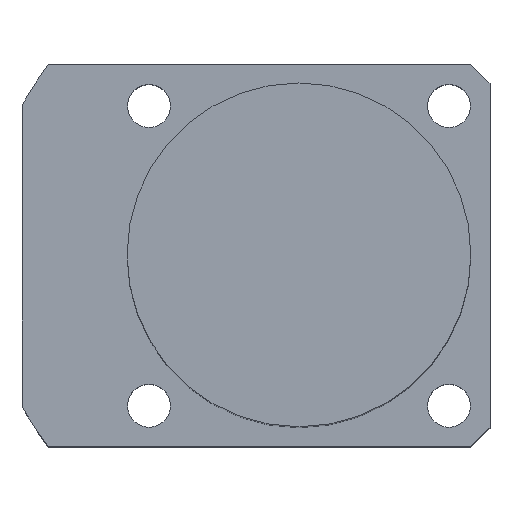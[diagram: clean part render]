
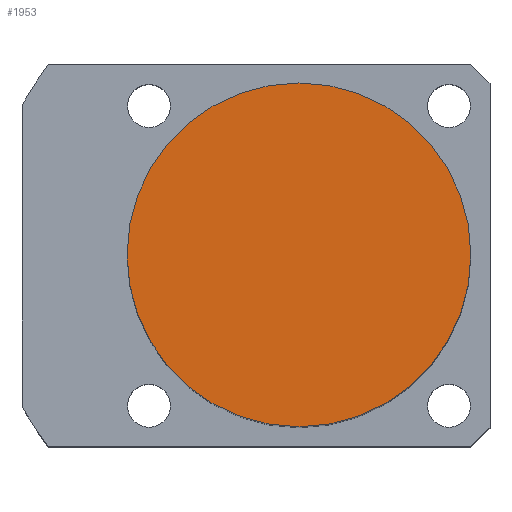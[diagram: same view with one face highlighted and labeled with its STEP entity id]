
A CAD part, top view. The second image highlights one B-rep face of the part: STEP entity #1953.
In plain terms, the highlighted planar face has unit normal (0, 0, 1).
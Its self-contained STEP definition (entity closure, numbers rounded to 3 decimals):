
#1895=CARTESIAN_POINT('',(-0.0,18.0,68.5));
#1896=VERTEX_POINT('',#1895);
#1903=CARTESIAN_POINT('',(18.0,0.0,68.5));
#1904=VERTEX_POINT('',#1903);
#1905=CARTESIAN_POINT('',(0.0,0.0,68.5));
#1906=DIRECTION('',(0.0,0.0,1.0));
#1907=DIRECTION('',(1.0,0.0,0.0));
#1908=AXIS2_PLACEMENT_3D('',#1905,#1906,#1907);
#1909=CIRCLE('',#1908,18.0);
#1910=EDGE_CURVE('no 2129',#1904,#1896,#1909,.T.);
#1912=CARTESIAN_POINT('',(-0.0,-18.0,68.5));
#1913=VERTEX_POINT('',#1912);
#1914=CARTESIAN_POINT('',(0.0,0.0,68.5));
#1915=DIRECTION('',(0.0,0.0,1.0));
#1916=DIRECTION('',(1.0,0.0,0.0));
#1917=AXIS2_PLACEMENT_3D('',#1914,#1915,#1916);
#1918=CIRCLE('',#1917,18.0);
#1919=EDGE_CURVE('no 2135',#1913,#1904,#1918,.T.);
#1937=ORIENTED_EDGE('',*,*,#1910,.T.);
#1938=CARTESIAN_POINT('',(0.0,0.0,68.5));
#1939=DIRECTION('',(0.0,0.0,1.0));
#1940=DIRECTION('',(1.0,0.0,0.0));
#1941=AXIS2_PLACEMENT_3D('',#1938,#1939,#1940);
#1942=CIRCLE('',#1941,18.0);
#1943=EDGE_CURVE('no 2152',#1896,#1913,#1942,.T.);
#1944=ORIENTED_EDGE('',*,*,#1943,.T.);
#1945=ORIENTED_EDGE('',*,*,#1919,.T.);
#1946=EDGE_LOOP('',(#1937,#1944,#1945));
#1947=FACE_OUTER_BOUND('',#1946,.T.);
#1948=CARTESIAN_POINT('',(0.0,0.0,68.5));
#1949=DIRECTION('',(0.0,0.0,1.0));
#1950=DIRECTION('',(1.0,0.0,0.0));
#1951=AXIS2_PLACEMENT_3D('',#1948,#1949,#1950);
#1952=PLANE('',#1951);
#1953=ADVANCED_FACE('no 2145',(#1947),#1952,.T.);
